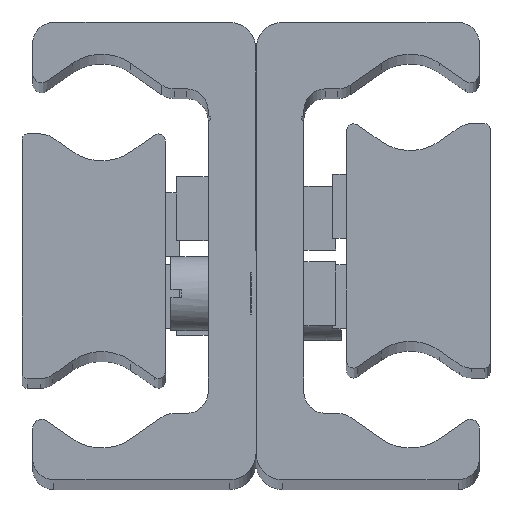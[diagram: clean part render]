
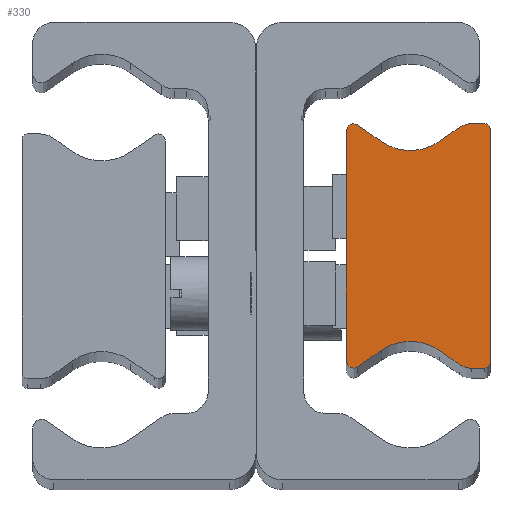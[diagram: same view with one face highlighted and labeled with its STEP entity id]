
A CAD part, top view. The second image highlights one B-rep face of the part: STEP entity #330.
In plain terms, the highlighted planar face has unit normal (0, 0, 1) as drawn and (0, 0, -1) by its records, which use the part's own axes.
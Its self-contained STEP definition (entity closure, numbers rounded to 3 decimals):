
#330 = ADVANCED_FACE( '', ( #753 ), #754, .F. );
#753 = FACE_OUTER_BOUND( '', #1287, .T. );
#754 = PLANE( '', #1288 );
#1287 = EDGE_LOOP( '', ( #2007, #2008, #2009, #2010, #2011, #2012, #2013, #2014, #2015, #2016, #2017, #2018, #2019, #2020, #2021, #2022 ) );
#1288 = AXIS2_PLACEMENT_3D( '', #2023, #2024, #2025 );
#2007 = ORIENTED_EDGE( '', *, *, #3041, .F. );
#2008 = ORIENTED_EDGE( '', *, *, #3069, .F. );
#2009 = ORIENTED_EDGE( '', *, *, #3070, .F. );
#2010 = ORIENTED_EDGE( '', *, *, #3071, .F. );
#2011 = ORIENTED_EDGE( '', *, *, #3072, .F. );
#2012 = ORIENTED_EDGE( '', *, *, #3073, .T. );
#2013 = ORIENTED_EDGE( '', *, *, #3045, .F. );
#2014 = ORIENTED_EDGE( '', *, *, #2900, .F. );
#2015 = ORIENTED_EDGE( '', *, *, #2959, .F. );
#2016 = ORIENTED_EDGE( '', *, *, #3074, .F. );
#2017 = ORIENTED_EDGE( '', *, *, #2983, .F. );
#2018 = ORIENTED_EDGE( '', *, *, #3075, .T. );
#2019 = ORIENTED_EDGE( '', *, *, #2966, .F. );
#2020 = ORIENTED_EDGE( '', *, *, #2979, .F. );
#2021 = ORIENTED_EDGE( '', *, *, #2892, .F. );
#2022 = ORIENTED_EDGE( '', *, *, #3076, .F. );
#2023 = CARTESIAN_POINT( '', ( 0.5, -11., -530. ) );
#2024 = DIRECTION( '', ( 0., 0., 1. ) );
#2025 = DIRECTION( '', ( 1., 0., 0. ) );
#2892 = EDGE_CURVE( '', #3386, #3388, #3389, .T. );
#2900 = EDGE_CURVE( '', #3400, #3402, #3403, .T. );
#2959 = EDGE_CURVE( '', #3505, #3400, #3507, .T. );
#2966 = EDGE_CURVE( '', #3517, #3519, #3520, .T. );
#2979 = EDGE_CURVE( '', #3388, #3517, #3537, .T. );
#2983 = EDGE_CURVE( '', #3542, #3544, #3545, .T. );
#3041 = EDGE_CURVE( '', #3643, #3645, #3646, .T. );
#3045 = EDGE_CURVE( '', #3402, #3651, #3652, .T. );
#3069 = EDGE_CURVE( '', #3689, #3643, #3690, .T. );
#3070 = EDGE_CURVE( '', #3691, #3689, #3692, .T. );
#3071 = EDGE_CURVE( '', #3693, #3691, #3694, .T. );
#3072 = EDGE_CURVE( '', #3695, #3693, #3696, .T. );
#3073 = EDGE_CURVE( '', #3695, #3651, #3697, .T. );
#3074 = EDGE_CURVE( '', #3544, #3505, #3698, .T. );
#3075 = EDGE_CURVE( '', #3542, #3519, #3699, .T. );
#3076 = EDGE_CURVE( '', #3645, #3386, #3700, .T. );
#3386 = VERTEX_POINT( '', #4111 );
#3388 = VERTEX_POINT( '', #4114 );
#3389 = LINE( '', #4115, #4116 );
#3400 = VERTEX_POINT( '', #4128 );
#3402 = VERTEX_POINT( '', #4131 );
#3403 = CIRCLE( '', #4132, 0.668 );
#3505 = VERTEX_POINT( '', #4257 );
#3507 = LINE( '', #4260, #4261 );
#3517 = VERTEX_POINT( '', #4275 );
#3519 = VERTEX_POINT( '', #4278 );
#3520 = LINE( '', #4279, #4280 );
#3537 = CIRCLE( '', #4303, 2. );
#3542 = VERTEX_POINT( '', #4309 );
#3544 = VERTEX_POINT( '', #4312 );
#3545 = LINE( '', #4313, #4314 );
#3643 = VERTEX_POINT( '', #4433 );
#3645 = VERTEX_POINT( '', #4436 );
#3646 = LINE( '', #4437, #4438 );
#3651 = VERTEX_POINT( '', #4445 );
#3652 = LINE( '', #4446, #4447 );
#3689 = VERTEX_POINT( '', #4494 );
#3690 = CIRCLE( '', #4495, 0.5 );
#3691 = VERTEX_POINT( '', #4496 );
#3692 = LINE( '', #4497, #4498 );
#3693 = VERTEX_POINT( '', #4499 );
#3694 = CIRCLE( '', #4500, 2. );
#3695 = VERTEX_POINT( '', #4501 );
#3696 = LINE( '', #4502, #4503 );
#3697 = CIRCLE( '', #4504, 4.763 );
#3698 = CIRCLE( '', #4505, 0.668 );
#3699 = CIRCLE( '', #4506, 4.763 );
#3700 = CIRCLE( '', #4507, 0.5 );
#4111 = CARTESIAN_POINT( '', ( 0.5, -11.5, -530. ) );
#4114 = CARTESIAN_POINT( '', ( 1.748, -11.5, -530. ) );
#4115 = CARTESIAN_POINT( '', ( 0.5, -11.5, -530. ) );
#4116 = VECTOR( '', #4945, 1000. );
#4128 = CARTESIAN_POINT( '', ( 13.5, 10.832, -530. ) );
#4131 = CARTESIAN_POINT( '', ( 12.449, 11.379, -530. ) );
#4132 = AXIS2_PLACEMENT_3D( '', #4957, #4958, #4959 );
#4257 = CARTESIAN_POINT( '', ( 13.5, -10.832, -530. ) );
#4260 = CARTESIAN_POINT( '', ( 13.5, -10.832, -530. ) );
#4261 = VECTOR( '', #5053, 1000. );
#4275 = CARTESIAN_POINT( '', ( 2.895, -11.138, -530. ) );
#4278 = CARTESIAN_POINT( '', ( 4.768, -9.827, -530. ) );
#4279 = CARTESIAN_POINT( '', ( 2.895, -11.138, -530. ) );
#4280 = VECTOR( '', #5059, 1000. );
#4303 = AXIS2_PLACEMENT_3D( '', #5072, #5073, #5074 );
#4309 = CARTESIAN_POINT( '', ( 10.232, -9.827, -530. ) );
#4312 = CARTESIAN_POINT( '', ( 12.449, -11.379, -530. ) );
#4313 = CARTESIAN_POINT( '', ( 10.232, -9.827, -530. ) );
#4314 = VECTOR( '', #5077, 1000. );
#4433 = CARTESIAN_POINT( '', ( 0., 11., -530. ) );
#4436 = CARTESIAN_POINT( '', ( 0., -11., -530. ) );
#4437 = CARTESIAN_POINT( '', ( 0., 11., -530. ) );
#4438 = VECTOR( '', #5169, 1000. );
#4445 = CARTESIAN_POINT( '', ( 10.232, 9.827, -530. ) );
#4446 = CARTESIAN_POINT( '', ( 12.449, 11.379, -530. ) );
#4447 = VECTOR( '', #5172, 1000. );
#4494 = CARTESIAN_POINT( '', ( 0.5, 11.5, -530. ) );
#4495 = AXIS2_PLACEMENT_3D( '', #5204, #5205, #5206 );
#4496 = CARTESIAN_POINT( '', ( 1.748, 11.5, -530. ) );
#4497 = CARTESIAN_POINT( '', ( 1.748, 11.5, -530. ) );
#4498 = VECTOR( '', #5207, 1000. );
#4499 = CARTESIAN_POINT( '', ( 2.895, 11.138, -530. ) );
#4500 = AXIS2_PLACEMENT_3D( '', #5208, #5209, #5210 );
#4501 = CARTESIAN_POINT( '', ( 4.768, 9.827, -530. ) );
#4502 = CARTESIAN_POINT( '', ( 4.768, 9.827, -530. ) );
#4503 = VECTOR( '', #5211, 1000. );
#4504 = AXIS2_PLACEMENT_3D( '', #5212, #5213, #5214 );
#4505 = AXIS2_PLACEMENT_3D( '', #5215, #5216, #5217 );
#4506 = AXIS2_PLACEMENT_3D( '', #5218, #5219, #5220 );
#4507 = AXIS2_PLACEMENT_3D( '', #5221, #5222, #5223 );
#4945 = DIRECTION( '', ( 1., 0., 0. ) );
#4957 = CARTESIAN_POINT( '', ( 12.832, 10.832, -530. ) );
#4958 = DIRECTION( '', ( 0., 0., 1. ) );
#4959 = DIRECTION( '', ( 1., 0., 0. ) );
#5053 = DIRECTION( '', ( 0., 1., 0. ) );
#5059 = DIRECTION( '', ( 0.819, 0.574, 0. ) );
#5072 = CARTESIAN_POINT( '', ( 1.748, -9.5, -530. ) );
#5073 = DIRECTION( '', ( 0., 0., 1. ) );
#5074 = DIRECTION( '', ( 1., 0., 0. ) );
#5077 = DIRECTION( '', ( 0.819, -0.574, 0. ) );
#5169 = DIRECTION( '', ( 0., -1., 0. ) );
#5172 = DIRECTION( '', ( -0.819, -0.574, 0. ) );
#5204 = CARTESIAN_POINT( '', ( 0.5, 11., -530. ) );
#5205 = DIRECTION( '', ( 0., 0., 1. ) );
#5206 = DIRECTION( '', ( 1., 0., 0. ) );
#5207 = DIRECTION( '', ( -1., 0., 0. ) );
#5208 = CARTESIAN_POINT( '', ( 1.748, 9.5, -530. ) );
#5209 = DIRECTION( '', ( 0., 0., 1. ) );
#5210 = DIRECTION( '', ( 1., 0., 0. ) );
#5211 = DIRECTION( '', ( -0.819, 0.574, 0. ) );
#5212 = CARTESIAN_POINT( '', ( 7.5, 13.729, -530. ) );
#5213 = DIRECTION( '', ( 0., 0., 1. ) );
#5214 = DIRECTION( '', ( 1., 0., 0. ) );
#5215 = CARTESIAN_POINT( '', ( 12.832, -10.832, -530. ) );
#5216 = DIRECTION( '', ( 0., 0., 1. ) );
#5217 = DIRECTION( '', ( 1., 0., 0. ) );
#5218 = CARTESIAN_POINT( '', ( 7.5, -13.729, -530. ) );
#5219 = DIRECTION( '', ( 0., 0., 1. ) );
#5220 = DIRECTION( '', ( 1., 0., 0. ) );
#5221 = CARTESIAN_POINT( '', ( 0.5, -11., -530. ) );
#5222 = DIRECTION( '', ( 0., 0., 1. ) );
#5223 = DIRECTION( '', ( 1., 0., 0. ) );
